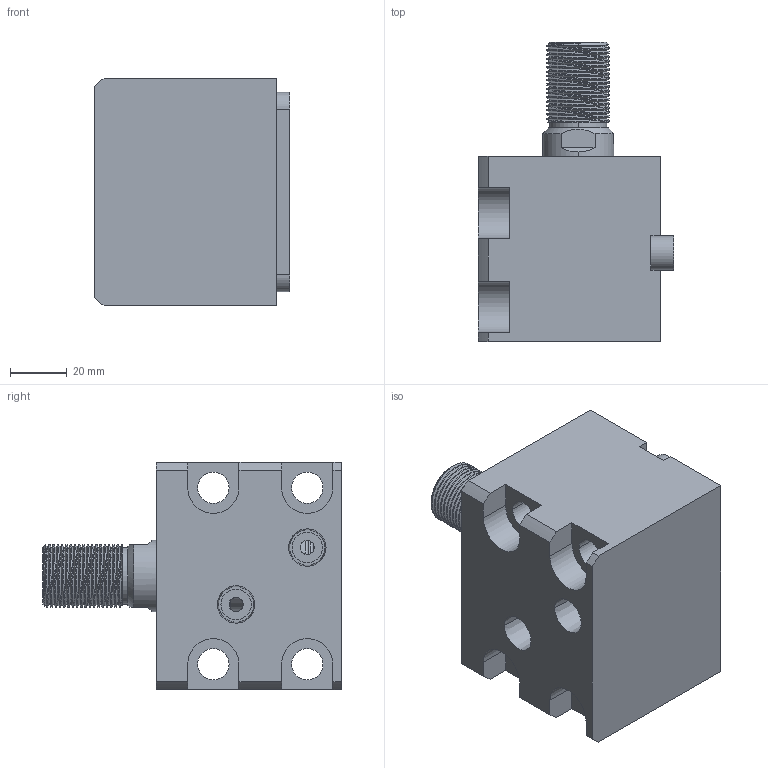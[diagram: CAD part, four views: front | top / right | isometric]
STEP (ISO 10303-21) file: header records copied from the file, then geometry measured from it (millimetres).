
FILE_DESCRIPTION (( 'STEP AP214' ), '1' );
FILE_NAME ('chtb-la40x10w_asm.STEP', '2018-06-04T00:26:14', ( 'Windows' ), ( 'Microsoft' ), 'SwSTEP 2.0', 'SolidWorks 2015', '' );
FILE_SCHEMA (( 'AUTOMOTIVE_DESIGN' ));
Length unit declared in the file: millimetre
Products named in the file (5): CHTB-SD40X10WHSG; CHTB-LA40X10NBT; CHTB-LA40PJ; chtb-la40x10w_asm; CHTB-SD40QG
Assembly tree (4 placements, depth 2):
  chtb-la40x10w_asm
    CHTB-LA40PJ
    CHTB-LA40X10NBT
    CHTB-SD40X10WHSG
    CHTB-SD40QG
Bounding box: 68.5 x 105 x 80 mm (x, y, z)
Volume: 304408.1 mm3; surface area: 71482.1 mm2
Topology: 4 solids, 5 shells, 205 faces, 559 edges, 373 vertices
Faces by surface type: cylinder 111, plane 52, bspline 16, cone 14, torus 12
Entity records: 13775 total; most frequent: CARTESIAN_POINT 8706, ORIENTED_EDGE 1106, DIRECTION 926, EDGE_CURVE 553, VERTEX_POINT 373, AXIS2_PLACEMENT_3D 363, EDGE_LOOP 234, ADVANCED_FACE 205
